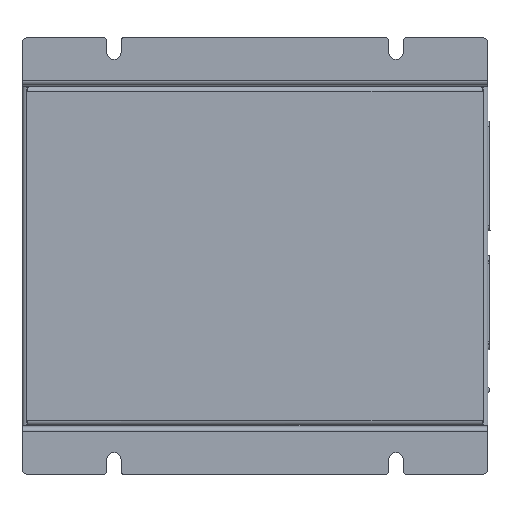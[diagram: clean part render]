
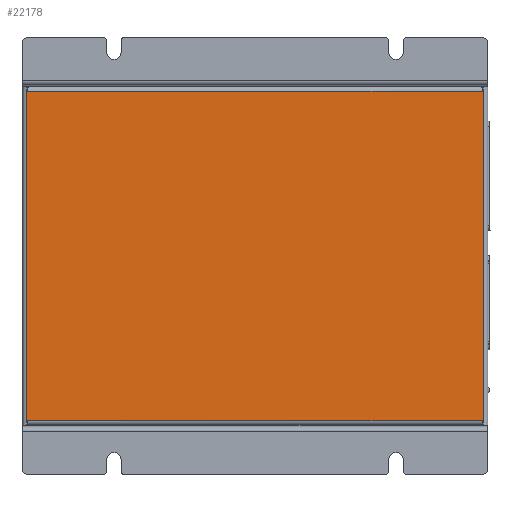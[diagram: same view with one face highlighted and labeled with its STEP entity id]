
A CAD part, front view. The second image highlights one B-rep face of the part: STEP entity #22178.
In plain terms, the highlighted planar face has unit normal (0, -1, 0).
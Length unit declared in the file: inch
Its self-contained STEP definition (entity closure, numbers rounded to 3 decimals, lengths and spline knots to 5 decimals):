
#91 = VECTOR ( 'NONE', #4433, 39.37008 ) ;
#743 = VECTOR ( 'NONE', #27695, 39.37008 ) ;
#1930 = PLANE ( 'NONE',  #27993 ) ;
#3898 = CARTESIAN_POINT ( 'NONE',  ( 3.50095, -1.998, 2.52595 ) ) ;
#4433 = DIRECTION ( 'NONE',  ( 1., 0., 0. ) ) ;
#5594 = DIRECTION ( 'NONE',  ( 0., 0., 1. ) ) ;
#6627 = DIRECTION ( 'NONE',  ( 0., 0., -1. ) ) ;
#8871 = CARTESIAN_POINT ( 'NONE',  ( 3.575, -1.998, 2.6 ) ) ;
#9216 = LINE ( 'NONE', #3898, #743 ) ;
#10730 = VECTOR ( 'NONE', #12810, 39.37008 ) ;
#11104 = EDGE_LOOP ( 'NONE', ( #23255, #26387, #13408, #21154 ) ) ;
#12443 = DIRECTION ( 'NONE',  ( 0., -1., 0. ) ) ;
#12810 = DIRECTION ( 'NONE',  ( 0., 0., -1. ) ) ;
#13408 = ORIENTED_EDGE ( 'NONE', *, *, #23502, .F. ) ;
#15245 = CARTESIAN_POINT ( 'NONE',  ( -3.50095, -1.998, -2.52595 ) ) ;
#16092 = VERTEX_POINT ( 'NONE', #40530 ) ;
#16247 = CARTESIAN_POINT ( 'NONE',  ( 3.50095, -1.998, 2.6 ) ) ;
#16807 = CARTESIAN_POINT ( 'NONE',  ( 3.50095, -1.998, -2.52595 ) ) ;
#19701 = EDGE_CURVE ( 'NONE', #16092, #41764, #19704, .T. ) ;
#19704 = LINE ( 'NONE', #30059, #10730 ) ;
#21154 = ORIENTED_EDGE ( 'NONE', *, *, #42486, .T. ) ;
#22178 = ADVANCED_FACE ( 'NONE', ( #33143 ), #1930, .T. ) ;
#22789 = LINE ( 'NONE', #15245, #91 ) ;
#23255 = ORIENTED_EDGE ( 'NONE', *, *, #19701, .T. ) ;
#23502 = EDGE_CURVE ( 'NONE', #33461, #41527, #29300, .T. ) ;
#26387 = ORIENTED_EDGE ( 'NONE', *, *, #31278, .T. ) ;
#27695 = DIRECTION ( 'NONE',  ( -1., 0., 0. ) ) ;
#27993 = AXIS2_PLACEMENT_3D ( 'NONE', #8871, #12443, #5594 ) ;
#28930 = CARTESIAN_POINT ( 'NONE',  ( 3.50095, -1.998, 2.52595 ) ) ;
#29300 = LINE ( 'NONE', #16247, #34948 ) ;
#30059 = CARTESIAN_POINT ( 'NONE',  ( -3.50095, -1.998, 2.6 ) ) ;
#31278 = EDGE_CURVE ( 'NONE', #41764, #41527, #22789, .T. ) ;
#33143 = FACE_OUTER_BOUND ( 'NONE', #11104, .T. ) ;
#33461 = VERTEX_POINT ( 'NONE', #28930 ) ;
#34289 = CARTESIAN_POINT ( 'NONE',  ( -3.50095, -1.998, -2.52595 ) ) ;
#34948 = VECTOR ( 'NONE', #6627, 39.37008 ) ;
#40530 = CARTESIAN_POINT ( 'NONE',  ( -3.50095, -1.998, 2.52595 ) ) ;
#41527 = VERTEX_POINT ( 'NONE', #16807 ) ;
#41764 = VERTEX_POINT ( 'NONE', #34289 ) ;
#42486 = EDGE_CURVE ( 'NONE', #33461, #16092, #9216, .T. ) ;
